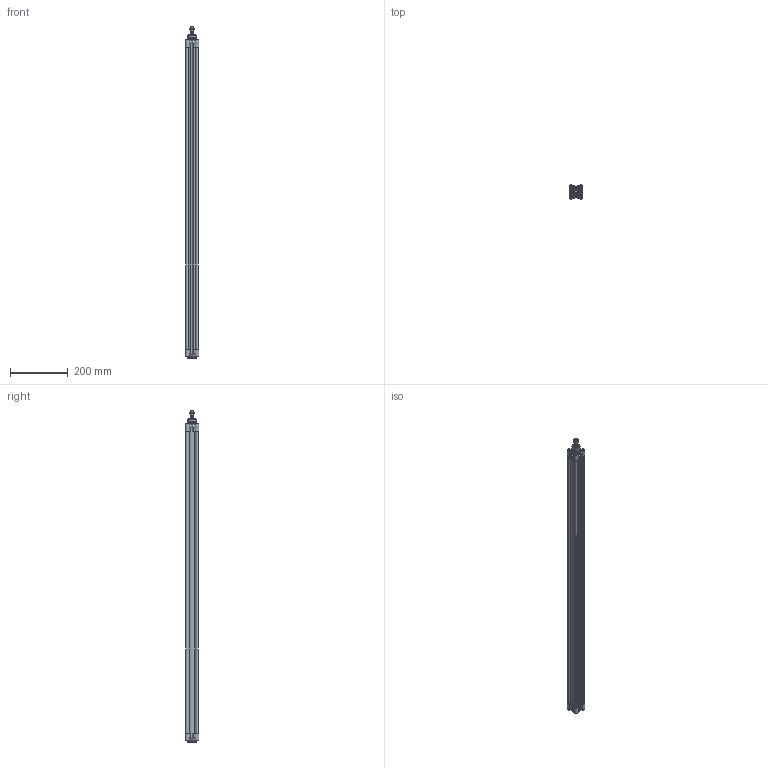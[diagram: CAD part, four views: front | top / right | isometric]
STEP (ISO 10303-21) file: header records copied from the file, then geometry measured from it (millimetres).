
FILE_DESCRIPTION(/* description */ ('Unknown'),/* implementation_level */ '2;1');
FILE_NAME(/* name */ 'HIF 32_1000',/* time_stamp */ '2024-08-08T13:19:40+02:00',/* author */ ('Unknown'),/* organization */ ('Unknown'),/* preprocessor_version */ 'ST-DEVELOPER v16.7',/* originating_system */ 'Solid Edge',/* authorisation */ 'Unknown');
FILE_SCHEMA (('AUTOMOTIVE_DESIGN {1 0 10303 214 3 1 1}'));
Length unit declared in the file: millimetre
Products named in the file (6): HIF 32_1000; Prfilrohr 32_1000; Mutter; Kolbenstange 32_1000; Kit_1; Kit_2
Assembly tree (5 placements, depth 2):
  HIF 32_1000
    Prfilrohr 32_1000
    Mutter
    Kolbenstange 32_1000
    Kit_1
    Kit_2
Bounding box: 47 x 47 x 1146 mm (x, y, z)
Volume: 778749.7 mm3; surface area: 573549.7 mm2
Topology: 5 solids, 12 shells, 957 faces, 2431 edges, 1577 vertices
Faces by surface type: cylinder 372, plane 329, cone 96, torus 75, bspline 65, sphere 20
Full cylindrical faces by diameter (mm): 2.1 x2, 4.917 x16, 6 x8, 6.2 x8, 7 x2, 7.9 x1, 7.991 x2, 8 x2, 8.56 x2, 8.566 x2, 8.647 x1, 10 x9, 10.3 x8, 11.6 x1, 11.804 x1, 12 x3, 12.8 x1, 12.847 x1, 16 x2, 22 x2, 28 x1, 30 x2, 32 x2
Entity records: 36933 total; most frequent: CARTESIAN_POINT 9326, ORIENTED_EDGE 4712, DIRECTION 4309, EDGE_CURVE 2356, AXIS2_PLACEMENT_3D 1706, VERTEX_POINT 1559, FACE_BOUND 1117, EDGE_LOOP 1109
